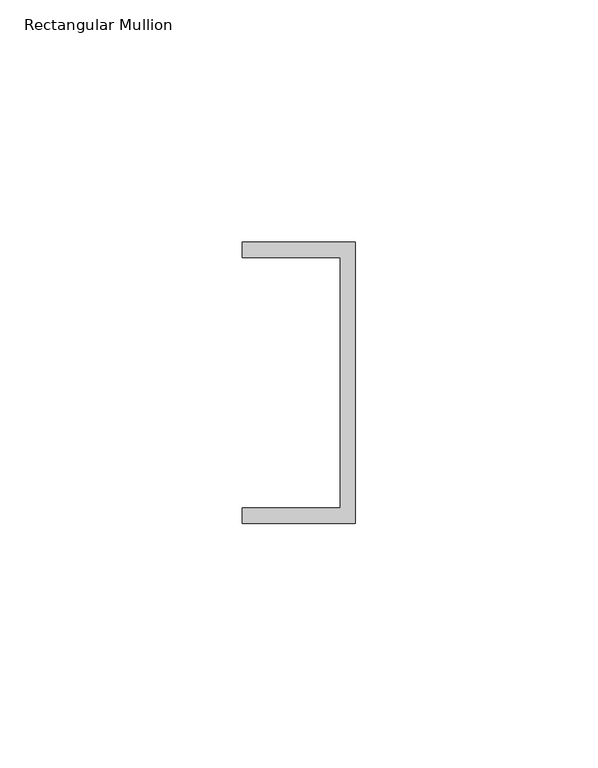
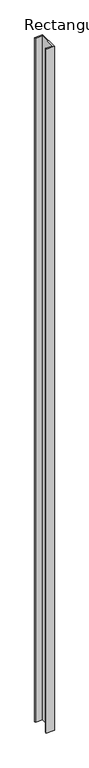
"""IFC4 building model written with IfcOpenShell, lengths in millimetres: member geometry, Rectangular Mullion : Frame-Teknion-Altos-Ceiling_Channel."""

import ifcopenshell
import ifcopenshell.guid

model = None  # the IFC model being written
_history = None  # IfcOwnerHistory: only IFC2X3 demands one
_inside = {}  # id of a spatial element -> (the spatial element, [elements in it])
_under = {}  # id of a project, library or spatial element -> (it, [spatial elements below it])
_declared = {}  # id of a project -> (the project, [libraries it declares])
_typed = {}  # id of a type object -> (the type object, [elements of that type])
_made_of = {}  # id of a material, layer set ... -> (it, [elements and type objects made of it])


def new_model(schema):
    """Start an empty IFC model of exactly this schema.

    Asked for "IFC4X3", IfcOpenShell would pick the latest addendum, in which some entities
    have other attributes; the version numbers below select the first issue.
    IFC2X3 requires an IfcOwnerHistory on every rooted entity: one is made here for all.
    """
    global model, _history
    if schema == "IFC4X3":
        model = ifcopenshell.file(schema_version=(4, 3, 0, 0))
    else:
        model = ifcopenshell.file(schema=schema)
    _inside.clear()
    _under.clear()
    _declared.clear()
    _typed.clear()
    _made_of.clear()
    _history = None
    if model.schema == "IFC2X3":
        org = make("IfcOrganization", Name="unknown")
        user = make(
            "IfcPersonAndOrganization",
            ThePerson=make("IfcPerson", FamilyName="unknown"),
            TheOrganization=org,
        )
        app = make(
            "IfcApplication",
            ApplicationDeveloper=org,
            Version="unknown",
            ApplicationFullName="unknown",
            ApplicationIdentifier="unknown",
        )
        _history = make(
            "IfcOwnerHistory",
            OwningUser=user,
            OwningApplication=app,
            ChangeAction="ADDED",
            CreationDate=0,
        )
    return model


def make(cls, **values):
    """One entity of the class cls with the attributes given. An attribute that is None is left unset."""
    return model.create_entity(
        cls, **{name: value for name, value in values.items() if value is not None}
    )


def rooted(cls, **values):
    """An entity with a GlobalId (a new one), such as an element, a storey or a relation."""
    return make(cls, GlobalId=ifcopenshell.guid.new(), OwnerHistory=_history, **values)


def si_unit(unit_type, name, prefix=None):
    """IfcSIUnit, for example si_unit("LENGTHUNIT", "METRE", prefix="MILLI")."""
    return make("IfcSIUnit", UnitType=unit_type, Prefix=prefix, Name=name)


def assignment(units):
    """IfcUnitAssignment: the units of a project."""
    return None if units is None else make("IfcUnitAssignment", Units=units)


def point(xyz):
    """IfcCartesianPoint."""
    return None if xyz is None else make("IfcCartesianPoint", Coordinates=xyz)


def direction(xyz):
    """IfcDirection."""
    return None if xyz is None else make("IfcDirection", DirectionRatios=xyz)


def frame(location, z_axis=None, x_axis=None):
    """IfcAxis2Placement3D, a coordinate frame: its origin and axes. An axis left out is left unset."""
    return make(
        "IfcAxis2Placement3D",
        Location=point(location),
        Axis=direction(z_axis),
        RefDirection=direction(x_axis),
    )


def origin():
    """The frame at (0, 0, 0) with its axes left unset."""
    return frame((0.0, 0.0, 0.0))


def place(relative_to, where):
    """IfcLocalPlacement: puts the frame where relative to a parent placement (None: the world)."""
    return make(
        "IfcLocalPlacement", PlacementRelTo=relative_to, RelativePlacement=where
    )


def context(
    kind, dimensions, precision=None, world=None, true_north=None, identifier=None
):
    """IfcGeometricRepresentationContext, for example the 3D "Model" context."""
    return make(
        "IfcGeometricRepresentationContext",
        ContextIdentifier=identifier,
        ContextType=kind,
        CoordinateSpaceDimension=dimensions,
        Precision=precision,
        WorldCoordinateSystem=world,
        TrueNorth=true_north,
    )


def project(units=None, contexts=None):
    """IfcProject with its units and contexts."""
    return rooted(
        "IfcProject",
        Name="project",
        RepresentationContexts=contexts,
        UnitsInContext=assignment(units),
    )


def spatial(cls, under=None, at=None, **own):
    """A site, building, storey or space (cls), placed at a placement, below another one or the project."""
    s = rooted(cls, ObjectPlacement=at, **own)
    if under is not None:
        _under.setdefault(under.id(), (under, []))[1].append(s)
    return s


def polyline(points):
    """IfcPolyline through the points."""
    return make("IfcPolyline", Points=[point(p) for p in points])


def outline(outer, holes=None, kind="AREA"):
    """IfcArbitraryClosedProfileDef: a profile drawn as a closed curve; with holes, ...WithVoids."""
    if holes is None:
        return make("IfcArbitraryClosedProfileDef", ProfileType=kind, OuterCurve=outer)
    return make(
        "IfcArbitraryProfileDefWithVoids",
        ProfileType=kind,
        OuterCurve=outer,
        InnerCurves=holes,
    )


def extrude(swept, where, along, depth):
    """IfcExtrudedAreaSolid: the profile swept, set in the frame where, extruded along a direction by depth."""
    return make(
        "IfcExtrudedAreaSolid",
        SweptArea=swept,
        Position=where,
        ExtrudedDirection=direction(along),
        Depth=depth,
    )


def shape(context_of_items, identifier, shape_type, items):
    """IfcShapeRepresentation: the items that make up one representation, for example the "Body"."""
    return make(
        "IfcShapeRepresentation",
        ContextOfItems=context_of_items,
        RepresentationIdentifier=identifier,
        RepresentationType=shape_type,
        Items=items,
    )


def source(mapping_origin, context_of_items, identifier, shape_type, items):
    """IfcRepresentationMap: a shape defined once, which mapped items show again and again."""
    return make(
        "IfcRepresentationMap",
        MappingOrigin=mapping_origin,
        MappedRepresentation=shape(context_of_items, identifier, shape_type, items),
    )


def transform(
    local_origin,
    x_axis=None,
    y_axis=None,
    z_axis=None,
    scale=None,
    scale2=None,
    scale3=None,
    uniform=True,
):
    """IfcCartesianTransformationOperator3D, or its non-uniform kind. x_axis, y_axis, z_axis: its Axis1, 2, 3."""
    if uniform:
        return make(
            "IfcCartesianTransformationOperator3D",
            Axis1=direction(x_axis),
            Axis2=direction(y_axis),
            LocalOrigin=point(local_origin),
            Scale=scale,
            Axis3=direction(z_axis),
        )
    return make(
        "IfcCartesianTransformationOperator3DnonUniform",
        Axis1=direction(x_axis),
        Axis2=direction(y_axis),
        LocalOrigin=point(local_origin),
        Scale=scale,
        Axis3=direction(z_axis),
        Scale2=scale2,
        Scale3=scale3,
    )


def mapped(mapping_source, mapping_target):
    """IfcMappedItem: shows the shape of a source again, moved by a transform."""
    return make(
        "IfcMappedItem", MappingSource=mapping_source, MappingTarget=mapping_target
    )


def made_of(thing, what):
    """Note that an element or type object is made of a material, layer set ...; save() writes the relation."""
    if what is not None:
        _made_of.setdefault(what.id(), (what, []))[1].append(thing)
    return thing


def element(
    cls,
    number,
    at=None,
    inside=None,
    cuts=None,
    type_object=None,
    material=None,
    context=None,
    identifier="Body",
    shape_type=None,
    held_by="IfcProductDefinitionShape",
    body=None,
    shapes=None,
    **own,
):
    """One element of the class cls, such as IfcWall. Its Tag is "e" and its number.

    at: its placement. inside: the storey or other place that contains it. cuts: it is an
    opening in that element (IfcRelVoidsElement). A single representation is given by context,
    identifier, shape_type and body (its items); several are given by shapes. held_by: the class
    of the entity that holds the representations. save() writes the other relations.
    """
    e = rooted(cls, Tag="e%d" % number, ObjectPlacement=at, **own)
    if body is not None:
        shapes = [shape(context, identifier, shape_type, body)]
    if shapes is not None:
        e.Representation = make(held_by, Representations=shapes)
    if inside is not None:
        _inside.setdefault(inside.id(), (inside, []))[1].append(e)
    if cuts is not None:
        rooted(
            "IfcRelVoidsElement", RelatingBuildingElement=cuts, RelatedOpeningElement=e
        )
    if type_object is not None:
        _typed.setdefault(type_object.id(), (type_object, []))[1].append(e)
    return made_of(e, material)


def aggregate(whole, parts):
    """IfcRelAggregates: a whole, such as a stair, and the parts it consists of."""
    return rooted("IfcRelAggregates", RelatingObject=whole, RelatedObjects=parts)


def save(model, path):
    """Write the relations noted so far, then the file.

    IfcRelAggregates (storeys below a building ...), IfcRelContainedInSpatialStructure (elements
    in a storey), IfcRelDefinesByType, IfcRelAssociatesMaterial and IfcRelDeclares: one each for
    every whole, place, type object, material and project.
    """
    for whole, parts in _under.values():
        aggregate(whole, parts)
    for where, things in _inside.values():
        rooted(
            "IfcRelContainedInSpatialStructure",
            RelatedElements=things,
            RelatingStructure=where,
        )
    for kind, things in _typed.values():
        rooted("IfcRelDefinesByType", RelatedObjects=things, RelatingType=kind)
    for what, things in _made_of.values():
        rooted("IfcRelAssociatesMaterial", RelatedObjects=things, RelatingMaterial=what)
    for by, libraries in _declared.values():
        rooted("IfcRelDeclares", RelatingContext=by, RelatedDefinitions=libraries)
    model.write(path)


def rectangular_mullion_f52d68d9(model_context):
    return source(origin(), model_context, "Body", "SweptSolid", [
        extrude(outline(polyline([(0.0, 29.0214844), (0.0, -29.0214844), (-23.3164063, -29.0214844), (-23.3164063, -25.8464844), (-3.175, -25.8464844), (-3.175, 25.8464844), (-23.3164063, 25.8464844), (-23.3164063, 29.0214844), (0.0, 29.0214844)])), frame((0.0, 0.0, -2091.6304688), z_axis=(0.0, 0.0, 1.0), x_axis=(1.0, 0.0, 0.0)), (0.0, 0.0, 1.0), 2091.6304687),
    ])


if __name__ == "__main__":
    model = new_model("IFC4")
    model_context = context("Model", 3, world=origin())
    ifc_project = project(units=[si_unit("LENGTHUNIT", "METRE", prefix="MILLI")], contexts=[model_context])
    site = spatial("IfcSite", under=ifc_project)
    building = spatial("IfcBuilding", under=site)
    placement = place(None, origin())
    rectangular_mullion_shape = rectangular_mullion_f52d68d9(model_context)
    element("IfcMember", 1, ObjectType="Rectangular Mullion : Frame-Teknion-Altos-Ceiling_Channel", at=placement, inside=building, context=model_context, shape_type="MappedRepresentation", body=[
        mapped(rectangular_mullion_shape, transform((0.0, 0.0, 0.0), x_axis=(1.0, 0.0, 0.0), y_axis=(0.0, 1.0, 0.0), z_axis=(0.0, 0.0, 1.0))),
    ])
    save(model, "model.ifc")
